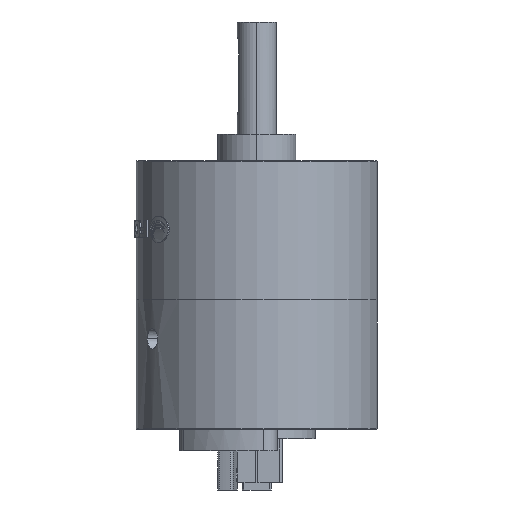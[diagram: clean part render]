
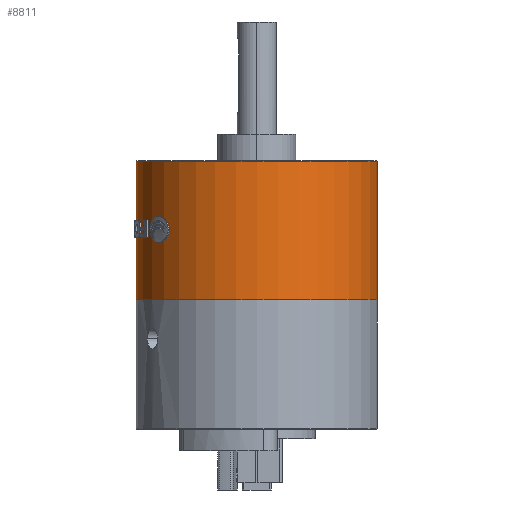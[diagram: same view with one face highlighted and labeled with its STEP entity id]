
A CAD part, left-side view. The second image highlights one B-rep face of the part: STEP entity #8811.
In plain terms, the highlighted cylindrical face has radius 24.75 mm (diameter 49.5 mm), a partial arc.
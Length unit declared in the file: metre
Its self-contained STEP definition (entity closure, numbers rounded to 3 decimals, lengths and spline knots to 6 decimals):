
#298 = FACE_OUTER_BOUND ( 'NONE', #8429, .T. ) ;
#661 = CARTESIAN_POINT ( 'NONE',  ( 0., 0., -0.0285 ) ) ;
#849 = CARTESIAN_POINT ( 'NONE',  ( 0., -0.02475, -0.0001 ) ) ;
#1238 = VERTEX_POINT ( 'NONE', #2277 ) ;
#1403 = VECTOR ( 'NONE', #9430, 1. ) ;
#1827 = LINE ( 'NONE', #8243, #1403 ) ;
#2001 = DIRECTION ( 'NONE',  ( 0., -1., 0. ) ) ;
#2277 = CARTESIAN_POINT ( 'NONE',  ( 0., 0.02475, -0.0001 ) ) ;
#2305 = ORIENTED_EDGE ( 'NONE', *, *, #13305, .T. ) ;
#2964 = DIRECTION ( 'NONE',  ( -1., 0., 0. ) ) ;
#3002 = AXIS2_PLACEMENT_3D ( 'NONE', #13108, #13407, #13232 ) ;
#3137 = CIRCLE ( 'NONE', #6167, 0.02475 ) ;
#3433 = ORIENTED_EDGE ( 'NONE', *, *, #13621, .F. ) ;
#3461 = CARTESIAN_POINT ( 'NONE',  ( 0., 0.02475, -0.0285 ) ) ;
#3519 = DIRECTION ( 'NONE',  ( 0., 0., -1. ) ) ;
#3738 = CARTESIAN_POINT ( 'NONE',  ( 0., 0., -0.0001 ) ) ;
#3909 = LINE ( 'NONE', #11446, #6574 ) ;
#4516 = ORIENTED_EDGE ( 'NONE', *, *, #6241, .T. ) ;
#5772 = ORIENTED_EDGE ( 'NONE', *, *, #14711, .T. ) ;
#6167 = AXIS2_PLACEMENT_3D ( 'NONE', #3738, #3519, #2964 ) ;
#6241 = EDGE_CURVE ( 'NONE', #12883, #1238, #3137, .T. ) ;
#6574 = VECTOR ( 'NONE', #14777, 1. ) ;
#7266 = AXIS2_PLACEMENT_3D ( 'NONE', #7750, #15805, #8969 ) ;
#7304 = VERTEX_POINT ( 'NONE', #849 ) ;
#7750 = CARTESIAN_POINT ( 'NONE',  ( 0., 0., -0.0001 ) ) ;
#8037 = CIRCLE ( 'NONE', #14188, 0.02475 ) ;
#8243 = CARTESIAN_POINT ( 'NONE',  ( 0., 0.02475, -0.0285 ) ) ;
#8429 = EDGE_LOOP ( 'NONE', ( #3433, #9135, #5772, #2305, #4516 ) ) ;
#8811 = ADVANCED_FACE ( 'NONE', ( #298 ), #10870, .T. ) ;
#8969 = DIRECTION ( 'NONE',  ( -1., 0., 0. ) ) ;
#9135 = ORIENTED_EDGE ( 'NONE', *, *, #14392, .T. ) ;
#9342 = CARTESIAN_POINT ( 'NONE',  ( -0.02475, 0., -0.0001 ) ) ;
#9430 = DIRECTION ( 'NONE',  ( 0., 0., 1. ) ) ;
#9505 = VERTEX_POINT ( 'NONE', #3461 ) ;
#9767 = DIRECTION ( 'NONE',  ( 0., 0., 1. ) ) ;
#10870 = CYLINDRICAL_SURFACE ( 'NONE', #3002, 0.02475 ) ;
#11085 = CIRCLE ( 'NONE', #7266, 0.02475 ) ;
#11446 = CARTESIAN_POINT ( 'NONE',  ( 0., -0.02475, -0.0285 ) ) ;
#11607 = VERTEX_POINT ( 'NONE', #14678 ) ;
#12883 = VERTEX_POINT ( 'NONE', #9342 ) ;
#13108 = CARTESIAN_POINT ( 'NONE',  ( 0., 0., -0.0285 ) ) ;
#13232 = DIRECTION ( 'NONE',  ( 0., -1., 0. ) ) ;
#13305 = EDGE_CURVE ( 'NONE', #7304, #12883, #11085, .T. ) ;
#13407 = DIRECTION ( 'NONE',  ( 0., 0., 1. ) ) ;
#13621 = EDGE_CURVE ( 'NONE', #9505, #1238, #1827, .T. ) ;
#14188 = AXIS2_PLACEMENT_3D ( 'NONE', #661, #9767, #2001 ) ;
#14392 = EDGE_CURVE ( 'NONE', #9505, #11607, #8037, .T. ) ;
#14678 = CARTESIAN_POINT ( 'NONE',  ( 0., -0.02475, -0.0285 ) ) ;
#14711 = EDGE_CURVE ( 'NONE', #11607, #7304, #3909, .T. ) ;
#14777 = DIRECTION ( 'NONE',  ( 0., 0., 1. ) ) ;
#15805 = DIRECTION ( 'NONE',  ( 0., 0., -1. ) ) ;
